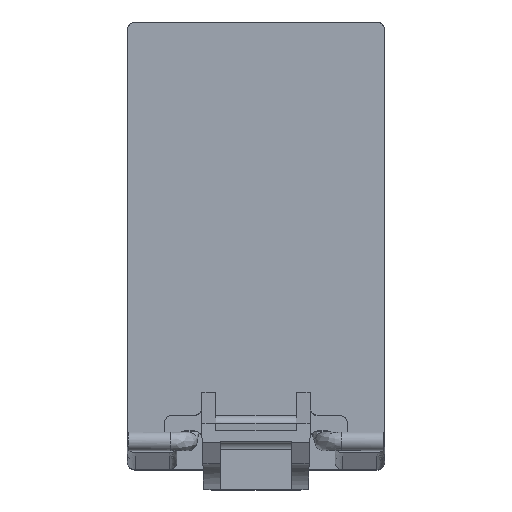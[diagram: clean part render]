
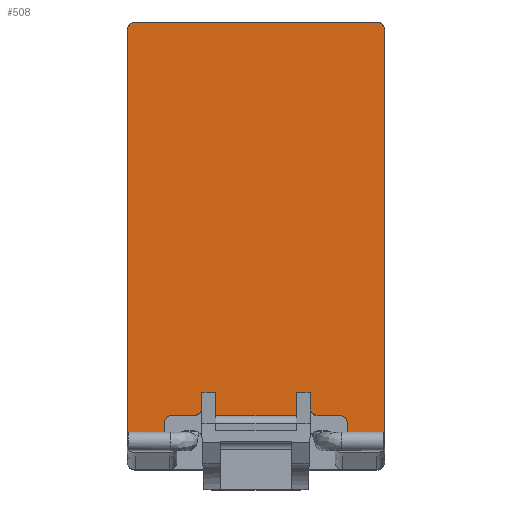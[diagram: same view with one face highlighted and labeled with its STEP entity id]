
A CAD part, top view. The second image highlights one B-rep face of the part: STEP entity #508.
In plain terms, the highlighted free-form (B-spline) face has degree [1, 1] with [2, 2] control points.
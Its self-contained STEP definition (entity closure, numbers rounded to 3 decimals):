
#181=B_SPLINE_CURVE_WITH_KNOTS('',1,(#4195,#4196),.UNSPECIFIED.,.F.,.F.,
(2,2),(0.,1.),.UNSPECIFIED.);
#182=B_SPLINE_CURVE_WITH_KNOTS('',3,(#4204,#4205,#4206,#4207),
 .UNSPECIFIED.,.F.,.F.,(4,4),(0.,1.),.UNSPECIFIED.);
#185=B_SPLINE_CURVE_WITH_KNOTS('',1,(#4222,#4223),.UNSPECIFIED.,.F.,.F.,
(2,2),(0.,1.),.UNSPECIFIED.);
#186=B_SPLINE_CURVE_WITH_KNOTS('',1,(#4231,#4232),.UNSPECIFIED.,.F.,.F.,
(2,2),(0.,1.),.UNSPECIFIED.);
#188=B_SPLINE_CURVE_WITH_KNOTS('',3,(#4240,#4241,#4242,#4243),
 .UNSPECIFIED.,.F.,.F.,(4,4),(0.,1.),.UNSPECIFIED.);
#189=B_SPLINE_CURVE_WITH_KNOTS('',1,(#4255,#4256),.UNSPECIFIED.,.F.,.F.,
(2,2),(0.,1.),.UNSPECIFIED.);
#190=B_SPLINE_CURVE_WITH_KNOTS('',3,(#4261,#4262,#4263,#4264),
 .UNSPECIFIED.,.F.,.F.,(4,4),(0.,1.),.UNSPECIFIED.);
#192=B_SPLINE_CURVE_WITH_KNOTS('',1,(#4279,#4280),.UNSPECIFIED.,.F.,.F.,
(2,2),(0.,1.),.UNSPECIFIED.);
#193=B_SPLINE_CURVE_WITH_KNOTS('',3,(#4285,#4286,#4287,#4288),
 .UNSPECIFIED.,.F.,.F.,(4,4),(0.,1.),.UNSPECIFIED.);
#196=B_SPLINE_CURVE_WITH_KNOTS('',1,(#4303,#4304),.UNSPECIFIED.,.F.,.F.,
(2,2),(0.,1.),.UNSPECIFIED.);
#198=B_SPLINE_CURVE_WITH_KNOTS('',1,(#4314,#4315),.UNSPECIFIED.,.F.,.F.,
(2,2),(0.,1.),.UNSPECIFIED.);
#199=B_SPLINE_CURVE_WITH_KNOTS('',1,(#4325,#4326),.UNSPECIFIED.,.F.,.F.,
(2,2),(0.,1.),.UNSPECIFIED.);
#201=B_SPLINE_CURVE_WITH_KNOTS('',1,(#4336,#4337),.UNSPECIFIED.,.F.,.F.,
(2,2),(0.,1.),.UNSPECIFIED.);
#203=B_SPLINE_CURVE_WITH_KNOTS('',1,(#4349,#4350),.UNSPECIFIED.,.F.,.F.,
(2,2),(0.,1.),.UNSPECIFIED.);
#206=B_SPLINE_CURVE_WITH_KNOTS('',1,(#4370,#4371),.UNSPECIFIED.,.F.,.F.,
(2,2),(0.,1.),.UNSPECIFIED.);
#207=B_SPLINE_CURVE_WITH_KNOTS('',1,(#4379,#4380),.UNSPECIFIED.,.F.,.F.,
(2,2),(0.,1.),.UNSPECIFIED.);
#208=B_SPLINE_CURVE_WITH_KNOTS('',3,(#4385,#4386,#4387,#4388),
 .UNSPECIFIED.,.F.,.F.,(4,4),(0.,1.),.UNSPECIFIED.);
#212=B_SPLINE_CURVE_WITH_KNOTS('',3,(#4413,#4414,#4415,#4416),
 .UNSPECIFIED.,.F.,.F.,(4,4),(0.,1.),.UNSPECIFIED.);
#215=B_SPLINE_CURVE_WITH_KNOTS('',1,(#4434,#4435),.UNSPECIFIED.,.F.,.F.,
(2,2),(0.,1.),.UNSPECIFIED.);
#216=B_SPLINE_CURVE_WITH_KNOTS('',3,(#4440,#4441,#4442,#4443),
 .UNSPECIFIED.,.F.,.F.,(4,4),(0.,1.),.UNSPECIFIED.);
#220=B_SPLINE_CURVE_WITH_KNOTS('',1,(#4467,#4468),.UNSPECIFIED.,.F.,.F.,
(2,2),(0.,1.),.UNSPECIFIED.);
#236=B_SPLINE_CURVE_WITH_KNOTS('',3,(#4700,#4701,#4702,#4703),
 .UNSPECIFIED.,.F.,.F.,(4,4),(0.,1.),.UNSPECIFIED.);
#238=B_SPLINE_CURVE_WITH_KNOTS('',1,(#4715,#4716),.UNSPECIFIED.,.F.,.F.,
(2,2),(0.,1.),.UNSPECIFIED.);
#239=B_SPLINE_CURVE_WITH_KNOTS('',1,(#4718,#4719),.UNSPECIFIED.,.F.,.F.,
(2,2),(0.,1.),.UNSPECIFIED.);
#508=ADVANCED_FACE('',(#682),#562,.T.);
#562=B_SPLINE_SURFACE_WITH_KNOTS('',1,1,((#4720,#4721),(#4722,#4723)),
 .UNSPECIFIED.,.F.,.F.,.F.,(2,2),(2,2),(0.,1.),(0.,1.),.UNSPECIFIED.);
#682=FACE_OUTER_BOUND('',#842,.T.);
#842=EDGE_LOOP('',(#1444,#1445,#1446,#1447,#1448,#1449,#1450,#1451,#1452,
#1453,#1454,#1455,#1456,#1457,#1458,#1459,#1460,#1461,#1462,#1463,#1464,
#1465,#1466,#1467));
#1444=ORIENTED_EDGE('',*,*,#2011,.T.);
#1445=ORIENTED_EDGE('',*,*,#2006,.T.);
#1446=ORIENTED_EDGE('',*,*,#2005,.T.);
#1447=ORIENTED_EDGE('',*,*,#2001,.T.);
#1448=ORIENTED_EDGE('',*,*,#2043,.F.);
#1449=ORIENTED_EDGE('',*,*,#2044,.F.);
#1450=ORIENTED_EDGE('',*,*,#2041,.T.);
#1451=ORIENTED_EDGE('',*,*,#1962,.T.);
#1452=ORIENTED_EDGE('',*,*,#1964,.T.);
#1453=ORIENTED_EDGE('',*,*,#1967,.T.);
#1454=ORIENTED_EDGE('',*,*,#1969,.T.);
#1455=ORIENTED_EDGE('',*,*,#1971,.T.);
#1456=ORIENTED_EDGE('',*,*,#1973,.T.);
#1457=ORIENTED_EDGE('',*,*,#1974,.T.);
#1458=ORIENTED_EDGE('',*,*,#1977,.T.);
#1459=ORIENTED_EDGE('',*,*,#1978,.T.);
#1460=ORIENTED_EDGE('',*,*,#1981,.T.);
#1461=ORIENTED_EDGE('',*,*,#1983,.T.);
#1462=ORIENTED_EDGE('',*,*,#1985,.T.);
#1463=ORIENTED_EDGE('',*,*,#1987,.T.);
#1464=ORIENTED_EDGE('',*,*,#1989,.T.);
#1465=ORIENTED_EDGE('',*,*,#1993,.T.);
#1466=ORIENTED_EDGE('',*,*,#1995,.T.);
#1467=ORIENTED_EDGE('',*,*,#1996,.T.);
#1674=VERTEX_POINT('',#4194);
#1675=VERTEX_POINT('',#4197);
#1676=VERTEX_POINT('',#4208);
#1677=VERTEX_POINT('',#4221);
#1678=VERTEX_POINT('',#4230);
#1679=VERTEX_POINT('',#4239);
#1680=VERTEX_POINT('',#4254);
#1681=VERTEX_POINT('',#4265);
#1682=VERTEX_POINT('',#4278);
#1683=VERTEX_POINT('',#4289);
#1684=VERTEX_POINT('',#4302);
#1685=VERTEX_POINT('',#4313);
#1686=VERTEX_POINT('',#4324);
#1687=VERTEX_POINT('',#4335);
#1688=VERTEX_POINT('',#4348);
#1691=VERTEX_POINT('',#4369);
#1692=VERTEX_POINT('',#4378);
#1693=VERTEX_POINT('',#4389);
#1697=VERTEX_POINT('',#4412);
#1698=VERTEX_POINT('',#4417);
#1700=VERTEX_POINT('',#4431);
#1701=VERTEX_POINT('',#4444);
#1717=VERTEX_POINT('',#4704);
#1718=VERTEX_POINT('',#4717);
#1962=EDGE_CURVE('',#1675,#1674,#181,.T.);
#1964=EDGE_CURVE('',#1674,#1676,#182,.T.);
#1967=EDGE_CURVE('',#1676,#1677,#185,.T.);
#1969=EDGE_CURVE('',#1677,#1678,#186,.T.);
#1971=EDGE_CURVE('',#1678,#1679,#188,.T.);
#1973=EDGE_CURVE('',#1679,#1680,#189,.T.);
#1974=EDGE_CURVE('',#1680,#1681,#190,.T.);
#1977=EDGE_CURVE('',#1681,#1682,#192,.T.);
#1978=EDGE_CURVE('',#1682,#1683,#193,.T.);
#1981=EDGE_CURVE('',#1683,#1684,#196,.T.);
#1983=EDGE_CURVE('',#1684,#1685,#198,.T.);
#1985=EDGE_CURVE('',#1685,#1686,#199,.T.);
#1987=EDGE_CURVE('',#1686,#1687,#201,.T.);
#1989=EDGE_CURVE('',#1687,#1688,#203,.T.);
#1993=EDGE_CURVE('',#1688,#1691,#206,.T.);
#1995=EDGE_CURVE('',#1691,#1692,#207,.T.);
#1996=EDGE_CURVE('',#1692,#1693,#208,.T.);
#2001=EDGE_CURVE('',#1698,#1697,#212,.T.);
#2005=EDGE_CURVE('',#1700,#1698,#215,.T.);
#2006=EDGE_CURVE('',#1701,#1700,#216,.T.);
#2011=EDGE_CURVE('',#1693,#1701,#220,.T.);
#2041=EDGE_CURVE('',#1717,#1675,#236,.T.);
#2043=EDGE_CURVE('',#1718,#1697,#238,.T.);
#2044=EDGE_CURVE('',#1717,#1718,#239,.T.);
#4194=CARTESIAN_POINT('',(0.5,0.,12.4));
#4195=CARTESIAN_POINT('',(16.1,0.,12.4));
#4196=CARTESIAN_POINT('',(0.5,0.,12.4));
#4197=CARTESIAN_POINT('',(16.1,0.,12.4));
#4204=CARTESIAN_POINT('',(0.5,0.,12.4));
#4205=CARTESIAN_POINT('',(0.235,0.,12.4));
#4206=CARTESIAN_POINT('',(0.,-0.235,12.4));
#4207=CARTESIAN_POINT('',(0.,-0.5,12.4));
#4208=CARTESIAN_POINT('',(0.,-0.5,12.4));
#4221=CARTESIAN_POINT('',(0.,-26.9,12.4));
#4222=CARTESIAN_POINT('',(0.,-0.5,12.4));
#4223=CARTESIAN_POINT('',(0.,-26.9,12.4));
#4230=CARTESIAN_POINT('',(1.9,-26.9,12.4));
#4231=CARTESIAN_POINT('',(0.,-26.9,12.4));
#4232=CARTESIAN_POINT('',(1.9,-26.9,12.4));
#4239=CARTESIAN_POINT('',(2.4,-26.4,12.4));
#4240=CARTESIAN_POINT('',(1.9,-26.9,12.4));
#4241=CARTESIAN_POINT('',(2.165,-26.9,12.4));
#4242=CARTESIAN_POINT('',(2.4,-26.665,12.4));
#4243=CARTESIAN_POINT('',(2.4,-26.4,12.4));
#4254=CARTESIAN_POINT('',(2.4,-25.9,12.4));
#4255=CARTESIAN_POINT('',(2.4,-26.4,12.4));
#4256=CARTESIAN_POINT('',(2.4,-25.9,12.4));
#4261=CARTESIAN_POINT('',(2.4,-25.9,12.4));
#4262=CARTESIAN_POINT('',(2.4,-25.635,12.4));
#4263=CARTESIAN_POINT('',(2.635,-25.4,12.4));
#4264=CARTESIAN_POINT('',(2.9,-25.4,12.4));
#4265=CARTESIAN_POINT('',(2.9,-25.4,12.4));
#4278=CARTESIAN_POINT('',(4.3,-25.4,12.4));
#4279=CARTESIAN_POINT('',(2.9,-25.4,12.4));
#4280=CARTESIAN_POINT('',(4.3,-25.4,12.4));
#4285=CARTESIAN_POINT('',(4.3,-25.4,12.4));
#4286=CARTESIAN_POINT('',(4.565,-25.4,12.4));
#4287=CARTESIAN_POINT('',(4.8,-25.165,12.4));
#4288=CARTESIAN_POINT('',(4.8,-24.9,12.4));
#4289=CARTESIAN_POINT('',(4.8,-24.9,12.4));
#4302=CARTESIAN_POINT('',(4.8,-23.9,12.4));
#4303=CARTESIAN_POINT('',(4.8,-24.9,12.4));
#4304=CARTESIAN_POINT('',(4.8,-23.9,12.4));
#4313=CARTESIAN_POINT('',(5.7,-23.9,12.4));
#4314=CARTESIAN_POINT('',(4.8,-23.9,12.4));
#4315=CARTESIAN_POINT('',(5.7,-23.9,12.4));
#4324=CARTESIAN_POINT('',(5.7,-25.4,12.4));
#4325=CARTESIAN_POINT('',(5.7,-23.9,12.4));
#4326=CARTESIAN_POINT('',(5.7,-25.4,12.4));
#4335=CARTESIAN_POINT('',(10.9,-25.4,12.4));
#4336=CARTESIAN_POINT('',(5.7,-25.4,12.4));
#4337=CARTESIAN_POINT('',(10.9,-25.4,12.4));
#4348=CARTESIAN_POINT('',(10.9,-23.9,12.4));
#4349=CARTESIAN_POINT('',(10.9,-25.4,12.4));
#4350=CARTESIAN_POINT('',(10.9,-23.9,12.4));
#4369=CARTESIAN_POINT('',(11.8,-23.9,12.4));
#4370=CARTESIAN_POINT('',(10.9,-23.9,12.4));
#4371=CARTESIAN_POINT('',(11.8,-23.9,12.4));
#4378=CARTESIAN_POINT('',(11.8,-24.9,12.4));
#4379=CARTESIAN_POINT('',(11.8,-23.9,12.4));
#4380=CARTESIAN_POINT('',(11.8,-24.9,12.4));
#4385=CARTESIAN_POINT('',(11.8,-24.9,12.4));
#4386=CARTESIAN_POINT('',(11.8,-25.165,12.4));
#4387=CARTESIAN_POINT('',(12.035,-25.4,12.4));
#4388=CARTESIAN_POINT('',(12.3,-25.4,12.4));
#4389=CARTESIAN_POINT('',(12.3,-25.4,12.4));
#4412=CARTESIAN_POINT('',(14.7,-26.9,12.4));
#4413=CARTESIAN_POINT('',(14.2,-26.4,12.4));
#4414=CARTESIAN_POINT('',(14.2,-26.665,12.4));
#4415=CARTESIAN_POINT('',(14.435,-26.9,12.4));
#4416=CARTESIAN_POINT('',(14.7,-26.9,12.4));
#4417=CARTESIAN_POINT('',(14.2,-26.4,12.4));
#4431=CARTESIAN_POINT('',(14.2,-25.9,12.4));
#4434=CARTESIAN_POINT('',(14.2,-25.9,12.4));
#4435=CARTESIAN_POINT('',(14.2,-26.4,12.4));
#4440=CARTESIAN_POINT('',(13.7,-25.4,12.4));
#4441=CARTESIAN_POINT('',(13.965,-25.4,12.4));
#4442=CARTESIAN_POINT('',(14.2,-25.635,12.4));
#4443=CARTESIAN_POINT('',(14.2,-25.9,12.4));
#4444=CARTESIAN_POINT('',(13.7,-25.4,12.4));
#4467=CARTESIAN_POINT('',(12.3,-25.4,12.4));
#4468=CARTESIAN_POINT('',(13.7,-25.4,12.4));
#4700=CARTESIAN_POINT('',(16.6,-0.5,12.4));
#4701=CARTESIAN_POINT('',(16.6,-0.235,12.4));
#4702=CARTESIAN_POINT('',(16.365,0.,12.4));
#4703=CARTESIAN_POINT('',(16.1,0.,12.4));
#4704=CARTESIAN_POINT('',(16.6,-0.5,12.4));
#4715=CARTESIAN_POINT('',(16.6,-26.9,12.4));
#4716=CARTESIAN_POINT('',(14.7,-26.9,12.4));
#4717=CARTESIAN_POINT('',(16.6,-26.9,12.4));
#4718=CARTESIAN_POINT('',(16.6,-0.5,12.4));
#4719=CARTESIAN_POINT('',(16.6,-26.9,12.4));
#4720=CARTESIAN_POINT('',(16.6,0.,12.4));
#4721=CARTESIAN_POINT('',(16.6,-26.9,12.4));
#4722=CARTESIAN_POINT('',(0.,0.,12.4));
#4723=CARTESIAN_POINT('',(0.,-26.9,12.4));
